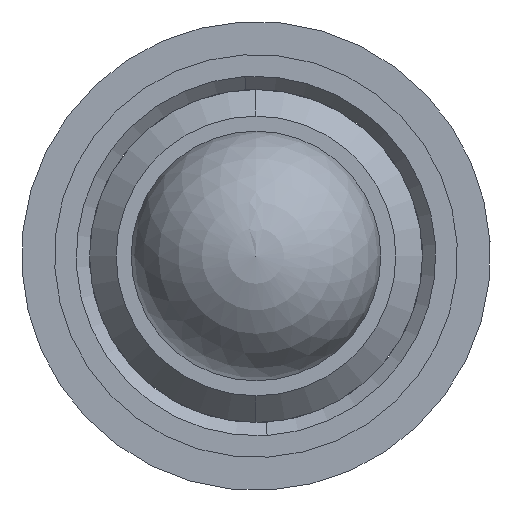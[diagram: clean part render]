
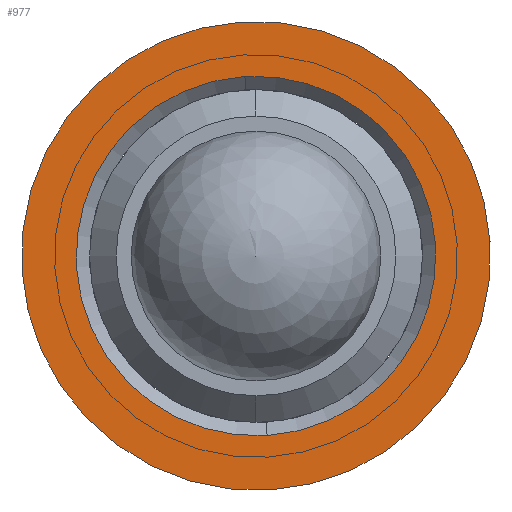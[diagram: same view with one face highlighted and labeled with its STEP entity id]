
A CAD part, left-side view. The second image highlights one B-rep face of the part: STEP entity #977.
In plain terms, the highlighted planar face has unit normal (-1, 0, 0).
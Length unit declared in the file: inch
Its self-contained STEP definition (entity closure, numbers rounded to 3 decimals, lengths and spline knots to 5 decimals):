
#178 = ORIENTED_EDGE ( 'NONE', *, *, #207, .T. ) ;
#207 = EDGE_CURVE ( 'NONE', #1345, #421, #1139, .T. ) ;
#216 = FACE_BOUND ( 'NONE', #1489, .T. ) ;
#223 = CIRCLE ( 'NONE', #866, 0.135 ) ;
#227 = CARTESIAN_POINT ( 'NONE',  ( 0.18479, 1.77704, 2.35655 ) ) ;
#245 = CARTESIAN_POINT ( 'NONE',  ( 0.18479, 1.79625, 2.66696 ) ) ;
#256 = ORIENTED_EDGE ( 'NONE', *, *, #1132, .T. ) ;
#369 = VERTEX_POINT ( 'NONE', #739 ) ;
#421 = VERTEX_POINT ( 'NONE', #245 ) ;
#432 = VERTEX_POINT ( 'NONE', #227 ) ;
#513 = CARTESIAN_POINT ( 'NONE',  ( 0.18479, 1.77451, 2.31563 ) ) ;
#565 = EDGE_LOOP ( 'NONE', ( #256, #178 ) ) ;
#732 = DIRECTION ( 'NONE',  ( 0., -0.062, -0.998 ) ) ;
#733 = DIRECTION ( 'NONE',  ( 1., 0., 0. ) ) ;
#738 = CARTESIAN_POINT ( 'NONE',  ( 0.18479, 1.78538, 2.49129 ) ) ;
#739 = CARTESIAN_POINT ( 'NONE',  ( 0.18479, 1.79372, 2.62603 ) ) ;
#800 = CIRCLE ( 'NONE', #1268, 0.135 ) ;
#866 = AXIS2_PLACEMENT_3D ( 'NONE', #1040, #958, #942 ) ;
#910 = PLANE ( 'NONE',  #919 ) ;
#919 = AXIS2_PLACEMENT_3D ( 'NONE', #738, #733, #732 ) ;
#942 = DIRECTION ( 'NONE',  ( 0., -0.062, -0.998 ) ) ;
#958 = DIRECTION ( 'NONE',  ( 1., 0., 0. ) ) ;
#977 = ADVANCED_FACE ( 'NONE', ( #216, #1452 ), #910, .F. ) ;
#985 = EDGE_CURVE ( 'NONE', #369, #432, #800, .T. ) ;
#1040 = CARTESIAN_POINT ( 'NONE',  ( 0.18479, 1.78538, 2.49129 ) ) ;
#1132 = EDGE_CURVE ( 'NONE', #421, #1345, #1223, .T. ) ;
#1139 = CIRCLE ( 'NONE', #1282, 0.176 ) ;
#1217 = CARTESIAN_POINT ( 'NONE',  ( 0.18479, 1.78538, 2.49129 ) ) ;
#1223 = CIRCLE ( 'NONE', #1497, 0.176 ) ;
#1226 = ORIENTED_EDGE ( 'NONE', *, *, #1246, .T. ) ;
#1243 = CARTESIAN_POINT ( 'NONE',  ( 0.18479, 1.78538, 2.49129 ) ) ;
#1246 = EDGE_CURVE ( 'NONE', #432, #369, #223, .T. ) ;
#1268 = AXIS2_PLACEMENT_3D ( 'NONE', #1460, #1455, #1450 ) ;
#1282 = AXIS2_PLACEMENT_3D ( 'NONE', #1243, #1409, #1430 ) ;
#1318 = DIRECTION ( 'NONE',  ( -1., 0., 0. ) ) ;
#1328 = DIRECTION ( 'NONE',  ( 0., 0.062, 0.998 ) ) ;
#1345 = VERTEX_POINT ( 'NONE', #513 ) ;
#1409 = DIRECTION ( 'NONE',  ( -1., 0., 0. ) ) ;
#1430 = DIRECTION ( 'NONE',  ( 0., 0.062, 0.998 ) ) ;
#1432 = ORIENTED_EDGE ( 'NONE', *, *, #985, .T. ) ;
#1450 = DIRECTION ( 'NONE',  ( 0., -0.062, -0.998 ) ) ;
#1452 = FACE_OUTER_BOUND ( 'NONE', #565, .T. ) ;
#1455 = DIRECTION ( 'NONE',  ( 1., 0., 0. ) ) ;
#1460 = CARTESIAN_POINT ( 'NONE',  ( 0.18479, 1.78538, 2.49129 ) ) ;
#1489 = EDGE_LOOP ( 'NONE', ( #1432, #1226 ) ) ;
#1497 = AXIS2_PLACEMENT_3D ( 'NONE', #1217, #1318, #1328 ) ;
